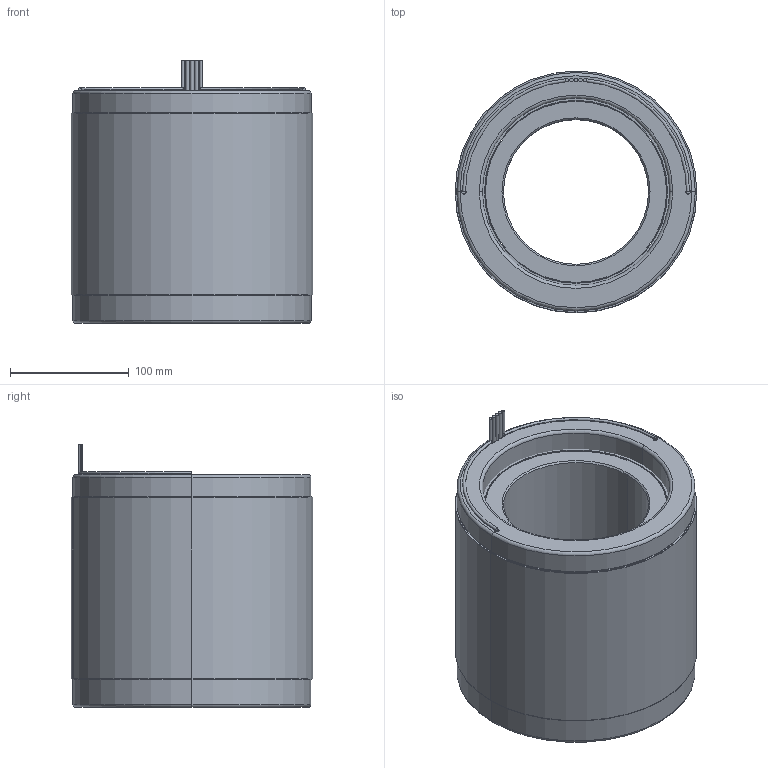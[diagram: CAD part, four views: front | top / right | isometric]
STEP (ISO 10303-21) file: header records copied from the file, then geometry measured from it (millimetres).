
FILE_DESCRIPTION (( 'STEP AP214' ), '1' );
FILE_NAME ('6100337-05.STEP', '2019-10-23T23:07:25', ( '' ), ( '' ), 'SwSTEP 2.0', 'SolidWorks 2016', '' );
FILE_SCHEMA (( 'AUTOMOTIVE_DESIGN' ));
Length unit declared in the file: millimetre
Products named in the file (11): 4600545-00; 4450180-XX_4450180-05; 6100337-05; 4150167-XX_4150167-05; COMP4500540-XX(COIL)_COMP4500540-05(COIL); 4400090-00; 4250361-XX_4250361-05; 4500540-XX_4500540-05
Assembly tree (10 placements, depth 4):
  6100337-05
    4250361-XX_4250361-05
      4150167-XX_4150167-05
    4500540-XX_4500540-05
      4450180-XX_4450180-05
        4450180-XX_4450180-05
        4400090-00
        4400090-00
        4600545-00
        4600545-00
      COMP4500540-XX(COIL)_COMP4500540-05(COIL)
Bounding box: 203.2 x 203.19 x 220.98 mm (x, y, z)
Volume: 5462178.2 mm3; surface area: 696288 mm2
Topology: 14 solids, 14 shells, 105 faces, 213 edges, 138 vertices
Faces by surface type: cylinder 59, plane 30, torus 12, cone 4
Entity records: 3320 total; most frequent: DIRECTION 605, CARTESIAN_POINT 472, ORIENTED_EDGE 426, AXIS2_PLACEMENT_3D 271, EDGE_CURVE 213, CIRCLE 150, VERTEX_POINT 138, EDGE_LOOP 121
